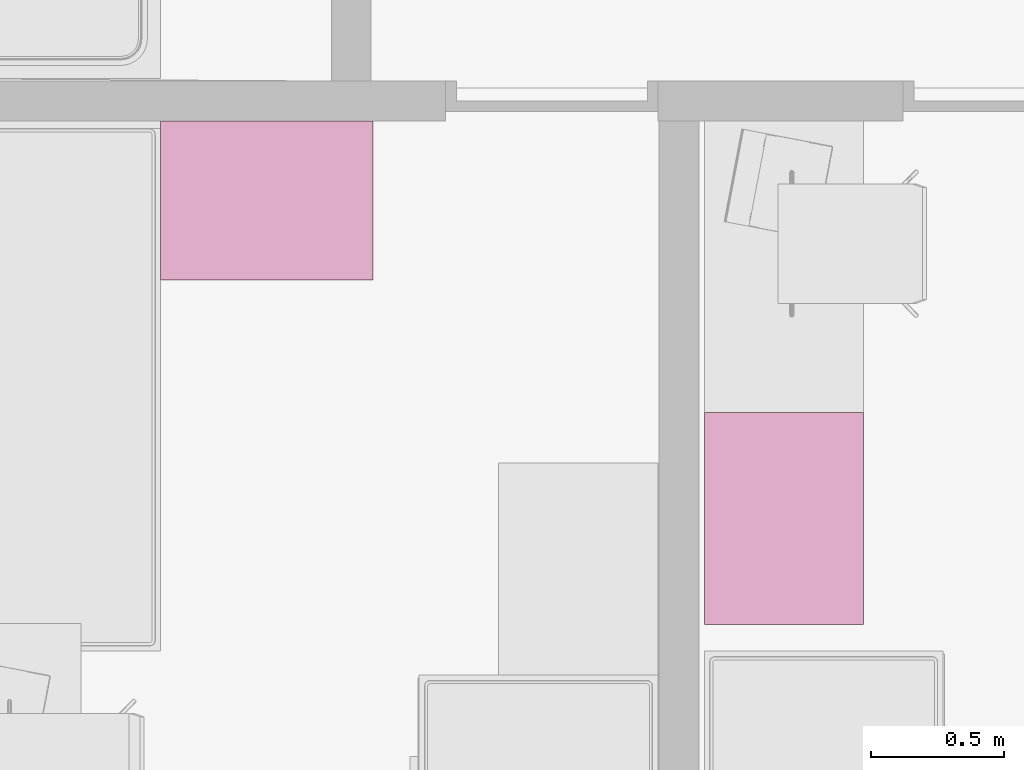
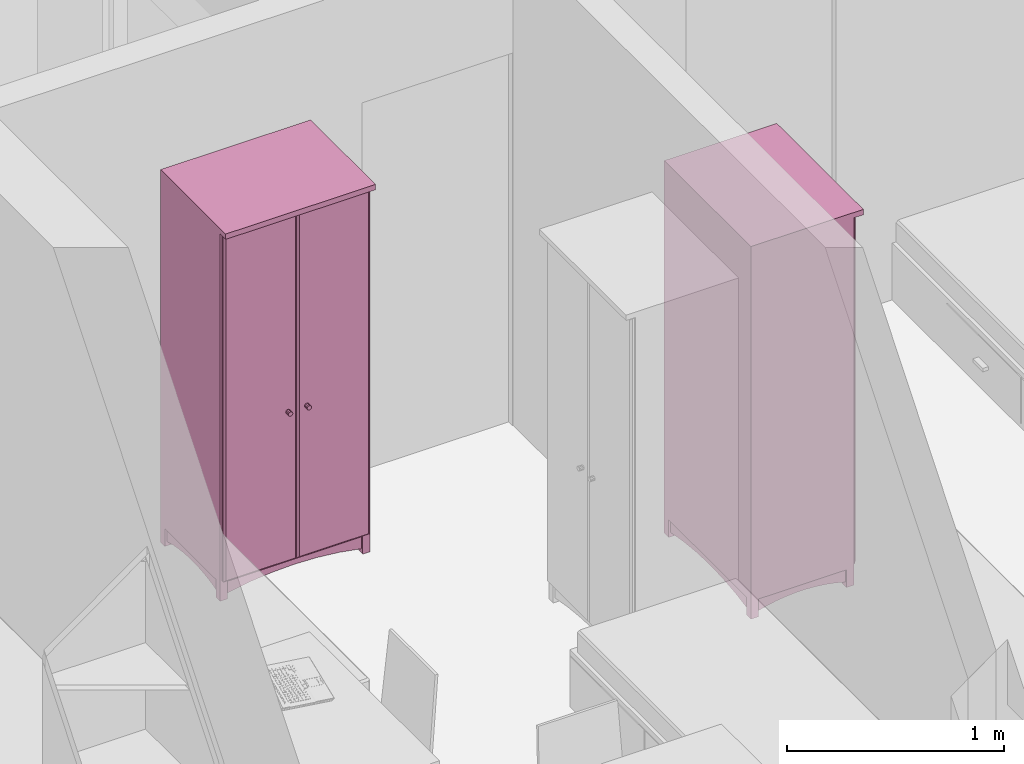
# One storey, part 131 of 172: 2 furnishings.
"""IFC2X3 building model written with IfcOpenShell, lengths in millimetres."""

import ifcopenshell
import ifcopenshell.guid

model = None  # the IFC model being written
_history = None  # IfcOwnerHistory: only IFC2X3 demands one
_inside = {}  # id of a spatial element -> (the spatial element, [elements in it])
_under = {}  # id of a project, library or spatial element -> (it, [spatial elements below it])
_declared = {}  # id of a project -> (the project, [libraries it declares])
_typed = {}  # id of a type object -> (the type object, [elements of that type])
_made_of = {}  # id of a material, layer set ... -> (it, [elements and type objects made of it])


def new_model(schema):
    """Start an empty IFC model of exactly this schema.

    Asked for "IFC4X3", IfcOpenShell would pick the latest addendum, in which some entities
    have other attributes; the version numbers below select the first issue.
    IFC2X3 requires an IfcOwnerHistory on every rooted entity: one is made here for all.
    """
    global model, _history
    if schema == "IFC4X3":
        model = ifcopenshell.file(schema_version=(4, 3, 0, 0))
    else:
        model = ifcopenshell.file(schema=schema)
    _inside.clear()
    _under.clear()
    _declared.clear()
    _typed.clear()
    _made_of.clear()
    _history = None
    if model.schema == "IFC2X3":
        org = make("IfcOrganization", Name="unknown")
        user = make(
            "IfcPersonAndOrganization",
            ThePerson=make("IfcPerson", FamilyName="unknown"),
            TheOrganization=org,
        )
        app = make(
            "IfcApplication",
            ApplicationDeveloper=org,
            Version="unknown",
            ApplicationFullName="unknown",
            ApplicationIdentifier="unknown",
        )
        _history = make(
            "IfcOwnerHistory",
            OwningUser=user,
            OwningApplication=app,
            ChangeAction="ADDED",
            CreationDate=0,
        )
    return model


def make(cls, **values):
    """One entity of the class cls with the attributes given. An attribute that is None is left unset."""
    return model.create_entity(
        cls, **{name: value for name, value in values.items() if value is not None}
    )


def entity(cls, *values):
    """Any entity or typed value of the class cls, its attributes in the order of the schema. None: left unset."""
    e = model.create_entity(cls)
    for i, value in enumerate(values):
        if value is not None:
            e[i] = value
    return e


def rooted(cls, **values):
    """An entity with a GlobalId (a new one), such as an element, a storey or a relation."""
    return make(cls, GlobalId=ifcopenshell.guid.new(), OwnerHistory=_history, **values)


def si_unit(unit_type, name, prefix=None):
    """IfcSIUnit, for example si_unit("LENGTHUNIT", "METRE", prefix="MILLI")."""
    return make("IfcSIUnit", UnitType=unit_type, Prefix=prefix, Name=name)


def converted_unit(unit_type, name, factor, base, dimensions=None, offset=None):
    """IfcConversionBasedUnit, such as the inch: factor (a typed value) times the base unit."""
    return make(
        "IfcConversionBasedUnit"
        if offset is None
        else "IfcConversionBasedUnitWithOffset",
        ConversionOffset=offset,
        Dimensions=None
        if dimensions is None
        else entity("IfcDimensionalExponents", *dimensions),
        UnitType=unit_type,
        Name=name,
        ConversionFactor=make(
            "IfcMeasureWithUnit", ValueComponent=factor, UnitComponent=base
        ),
    )


def money_unit(currency):
    """IfcMonetaryUnit."""
    return make("IfcMonetaryUnit", Currency=currency)


def assignment(units):
    """IfcUnitAssignment: the units of a project."""
    return None if units is None else make("IfcUnitAssignment", Units=units)


def point(xyz):
    """IfcCartesianPoint."""
    return None if xyz is None else make("IfcCartesianPoint", Coordinates=xyz)


def direction(xyz):
    """IfcDirection."""
    return None if xyz is None else make("IfcDirection", DirectionRatios=xyz)


def frame(location, z_axis=None, x_axis=None):
    """IfcAxis2Placement3D, a coordinate frame: its origin and axes. An axis left out is left unset."""
    return make(
        "IfcAxis2Placement3D",
        Location=point(location),
        Axis=direction(z_axis),
        RefDirection=direction(x_axis),
    )


def origin_with_axes():
    """The frame at (0, 0, 0) with the z axis (0, 0, 1) and the x axis (1, 0, 0) written out."""
    return frame((0.0, 0.0, 0.0), z_axis=(0.0, 0.0, 1.0), x_axis=(1.0, 0.0, 0.0))


def place(relative_to, where):
    """IfcLocalPlacement: puts the frame where relative to a parent placement (None: the world)."""
    return make(
        "IfcLocalPlacement", PlacementRelTo=relative_to, RelativePlacement=where
    )


def context(
    kind, dimensions, precision=None, world=None, true_north=None, identifier=None
):
    """IfcGeometricRepresentationContext, for example the 3D "Model" context."""
    return make(
        "IfcGeometricRepresentationContext",
        ContextIdentifier=identifier,
        ContextType=kind,
        CoordinateSpaceDimension=dimensions,
        Precision=precision,
        WorldCoordinateSystem=world,
        TrueNorth=true_north,
    )


def subcontext(parent, identifier, kind, view, scale=None):
    """IfcGeometricRepresentationSubContext, for example "Body" below "Model"."""
    return make(
        "IfcGeometricRepresentationSubContext",
        ContextIdentifier=identifier,
        ContextType=kind,
        ParentContext=parent,
        TargetScale=scale,
        TargetView=view,
    )


def project(units=None, contexts=None):
    """IfcProject with its units and contexts."""
    return rooted(
        "IfcProject",
        Name="project",
        RepresentationContexts=contexts,
        UnitsInContext=assignment(units),
    )


def spatial(cls, under=None, at=None, **own):
    """A site, building, storey or space (cls), placed at a placement, below another one or the project."""
    s = rooted(cls, ObjectPlacement=at, **own)
    if under is not None:
        _under.setdefault(under.id(), (under, []))[1].append(s)
    return s


def faces_of(points, faces, orient=None, outer=None):
    """IfcFace entities. A face is a list of loops; a loop is a list of indices into points, from 0.

    orient and outer hold one flag for each loop. By default every Orientation is true, the
    first loop of a face is its IfcFaceOuterBound and the others are IfcFaceBound.
    """
    made = []
    for i, loops in enumerate(faces):
        bounds = []
        for j, loop in enumerate(loops):
            is_outer = j == 0 if outer is None else outer[i][j]
            bounds.append(
                make(
                    "IfcFaceOuterBound" if is_outer else "IfcFaceBound",
                    Bound=make("IfcPolyLoop", Polygon=[points[k] for k in loop]),
                    Orientation=True if orient is None else orient[i][j],
                )
            )
        made.append(make("IfcFace", Bounds=bounds))
    return made


def faceted_brep(points, faces, orient=None, outer=None, voids=None):
    """IfcFacetedBrep: a solid bounded by flat faces; with voids (closed shells), ...WithVoids."""
    shared = [point(p) for p in points]
    hull = make("IfcClosedShell", CfsFaces=faces_of(shared, faces, orient, outer))
    if voids is None:
        return make("IfcFacetedBrep", Outer=hull)
    return make(
        "IfcFacetedBrepWithVoids",
        Outer=hull,
        Voids=[
            make(cls, CfsFaces=faces_of(shared, fs, o, b)) for cls, fs, o, b in voids
        ],
    )


def shape(context_of_items, identifier, shape_type, items):
    """IfcShapeRepresentation: the items that make up one representation, for example the "Body"."""
    return make(
        "IfcShapeRepresentation",
        ContextOfItems=context_of_items,
        RepresentationIdentifier=identifier,
        RepresentationType=shape_type,
        Items=items,
    )


def source(mapping_origin, context_of_items, identifier, shape_type, items):
    """IfcRepresentationMap: a shape defined once, which mapped items show again and again."""
    return make(
        "IfcRepresentationMap",
        MappingOrigin=mapping_origin,
        MappedRepresentation=shape(context_of_items, identifier, shape_type, items),
    )


def transform(
    local_origin,
    x_axis=None,
    y_axis=None,
    z_axis=None,
    scale=None,
    scale2=None,
    scale3=None,
    uniform=True,
):
    """IfcCartesianTransformationOperator3D, or its non-uniform kind. x_axis, y_axis, z_axis: its Axis1, 2, 3."""
    if uniform:
        return make(
            "IfcCartesianTransformationOperator3D",
            Axis1=direction(x_axis),
            Axis2=direction(y_axis),
            LocalOrigin=point(local_origin),
            Scale=scale,
            Axis3=direction(z_axis),
        )
    return make(
        "IfcCartesianTransformationOperator3DnonUniform",
        Axis1=direction(x_axis),
        Axis2=direction(y_axis),
        LocalOrigin=point(local_origin),
        Scale=scale,
        Axis3=direction(z_axis),
        Scale2=scale2,
        Scale3=scale3,
    )


def mapped(mapping_source, mapping_target):
    """IfcMappedItem: shows the shape of a source again, moved by a transform."""
    return make(
        "IfcMappedItem", MappingSource=mapping_source, MappingTarget=mapping_target
    )


def material(Name=None, Category=None):
    """IfcMaterial."""
    return make("IfcMaterial", Name=Name, Category=Category)


def material_list(materials):
    """IfcMaterialList."""
    return make("IfcMaterialList", Materials=materials)


def made_of(thing, what):
    """Note that an element or type object is made of a material, layer set ...; save() writes the relation."""
    if what is not None:
        _made_of.setdefault(what.id(), (what, []))[1].append(thing)
    return thing


def type_object(cls, material=None, **own):
    """A type object (cls), such as IfcWallType, which elements share."""
    return made_of(rooted(cls, **own), material)


def element(
    cls,
    number,
    at=None,
    inside=None,
    cuts=None,
    type_object=None,
    material=None,
    context=None,
    identifier="Body",
    shape_type=None,
    held_by="IfcProductDefinitionShape",
    body=None,
    shapes=None,
    **own,
):
    """One element of the class cls, such as IfcWall. Its Tag is "e" and its number.

    at: its placement. inside: the storey or other place that contains it. cuts: it is an
    opening in that element (IfcRelVoidsElement). A single representation is given by context,
    identifier, shape_type and body (its items); several are given by shapes. held_by: the class
    of the entity that holds the representations. save() writes the other relations.
    """
    e = rooted(cls, Tag="e%d" % number, ObjectPlacement=at, **own)
    if body is not None:
        shapes = [shape(context, identifier, shape_type, body)]
    if shapes is not None:
        e.Representation = make(held_by, Representations=shapes)
    if inside is not None:
        _inside.setdefault(inside.id(), (inside, []))[1].append(e)
    if cuts is not None:
        rooted(
            "IfcRelVoidsElement", RelatingBuildingElement=cuts, RelatedOpeningElement=e
        )
    if type_object is not None:
        _typed.setdefault(type_object.id(), (type_object, []))[1].append(e)
    return made_of(e, material)


def aggregate(whole, parts):
    """IfcRelAggregates: a whole, such as a stair, and the parts it consists of."""
    return rooted("IfcRelAggregates", RelatingObject=whole, RelatedObjects=parts)


def save(model, path):
    """Write the relations noted so far, then the file.

    IfcRelAggregates (storeys below a building ...), IfcRelContainedInSpatialStructure (elements
    in a storey), IfcRelDefinesByType, IfcRelAssociatesMaterial and IfcRelDeclares: one each for
    every whole, place, type object, material and project.
    """
    for whole, parts in _under.values():
        aggregate(whole, parts)
    for where, things in _inside.values():
        rooted(
            "IfcRelContainedInSpatialStructure",
            RelatedElements=things,
            RelatingStructure=where,
        )
    for kind, things in _typed.values():
        rooted("IfcRelDefinesByType", RelatedObjects=things, RelatingType=kind)
    for what, things in _made_of.values():
        rooted("IfcRelAssociatesMaterial", RelatedObjects=things, RelatingMaterial=what)
    for by, libraries in _declared.values():
        rooted("IfcRelDeclares", RelatingContext=by, RelatedDefinitions=libraries)
    model.write(path)


model = new_model("IFC2X3")

# Units and contexts
model_context = context("Model", 3, precision=1e-05, world=origin_with_axes(), true_north=direction((0.0, 1.0)))
body_context = subcontext(model_context, "Body", "Model", "MODEL_VIEW")
ifc_project = project(units=[si_unit("LENGTHUNIT", "METRE", prefix="MILLI"), si_unit("AREAUNIT", "SQUARE_METRE"), si_unit("VOLUMEUNIT", "CUBIC_METRE"), converted_unit("PLANEANGLEUNIT", "DEGREE", entity("IfcPlaneAngleMeasure", 0.0174532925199), si_unit("PLANEANGLEUNIT", "RADIAN"), dimensions=[0, 0, 0, 0, 0, 0, 0]), si_unit("SOLIDANGLEUNIT", "STERADIAN"), money_unit("USD"), converted_unit("TIMEUNIT", "Year", entity("IfcTimeMeasure", 31556926.0), si_unit("TIMEUNIT", "SECOND"), dimensions=[0, 0, 0, 0, 0, 0, 0]), si_unit("MASSUNIT", "GRAM"), si_unit("THERMODYNAMICTEMPERATUREUNIT", "DEGREE_CELSIUS"), si_unit("LUMINOUSINTENSITYUNIT", "LUMEN")], contexts=[model_context])

# Site, building, storey
site_placement = place(None, origin_with_axes())
site = spatial("IfcSite", under=ifc_project, at=site_placement, Name="Site", CompositionType="ELEMENT")
building_placement = place(site_placement, origin_with_axes())
building = spatial("IfcBuilding", under=site, at=building_placement, Name="Building", CompositionType="ELEMENT")
storey_placement = place(building_placement, frame((0.0, 0.0, 3200.0), z_axis=(0.0, 0.0, 1.0), x_axis=(1.0, 0.0, 0.0)))
storey = spatial("IfcBuildingStorey", under=building, at=storey_placement, Name="3KORRUS", CompositionType="ELEMENT", Elevation=3200.0)

# Furnishings
ifc_material = material(Name="Background")
ifc_material_list = material_list([ifc_material])
furnishing_element_type = type_object("IfcFurnishingElementType", Name="Cupboard 19")
shared_shape = source(origin_with_axes(), body_context, "Body", "Brep", [
    faceted_brep([(-780.0, 600.0, 120.0), (-780.0, 580.0, 120.0), (-780.0, 580.0, 2050.0), (-780.0, 600.0, 2050.0), (-20.0, 600.0, 120.0), (-20.0, 580.0, 120.0), (-20.0, 580.0, 2050.0), (-20.0, 600.0, 2050.0)], [[[0, 1, 2, 3]], [[0, 4, 5, 1]], [[1, 5, 6, 2]], [[3, 2, 6, 7]], [[4, 0, 3, 7]], [[5, 4, 7, 6]]]),
    faceted_brep([(0.0, 50.0, 100.0), (-20.0, 50.0, 100.0), (-20.0, 600.0, 100.0), (0.0, 600.0, 100.0), (0.0, 50.0, 2070.0), (-20.0, 50.0, 2070.0), (-20.0, 600.0, 2070.0), (0.0, 600.0, 2070.0)], [[[0, 1, 2, 3]], [[1, 0, 4, 5]], [[2, 1, 5, 6]], [[3, 2, 6, 7]], [[0, 3, 7, 4]], [[5, 4, 7, 6]]]),
    faceted_brep([(-780.0, 50.0, 100.0), (-800.0, 50.0, 100.0), (-800.0, 600.0, 100.0), (-780.0, 600.0, 100.0), (-780.0, 50.0, 2070.0), (-800.0, 50.0, 2070.0), (-800.0, 600.0, 2070.0), (-780.0, 600.0, 2070.0)], [[[0, 1, 2, 3]], [[1, 0, 4, 5]], [[2, 1, 5, 6]], [[3, 2, 6, 7]], [[0, 3, 7, 4]], [[5, 4, 7, 6]]]),
    faceted_brep([(-20.0, 50.0, 100.0), (-780.0, 50.0, 100.0), (-780.0, 600.0, 100.0), (-20.0, 600.0, 100.0), (-20.0, 50.0, 120.0), (-780.0, 50.0, 120.0), (-780.0, 600.0, 120.0), (-20.0, 600.0, 120.0)], [[[0, 1, 2, 3]], [[1, 0, 4, 5]], [[2, 1, 5, 6]], [[3, 2, 6, 7]], [[0, 3, 7, 4]], [[5, 4, 7, 6]]]),
    faceted_brep([(-20.0, 50.0, 2050.0), (-780.0, 50.0, 2050.0), (-780.0, 600.0, 2050.0), (-20.0, 600.0, 2050.0), (-20.0, 50.0, 2070.0), (-780.0, 50.0, 2070.0), (-780.0, 600.0, 2070.0), (-20.0, 600.0, 2070.0)], [[[0, 1, 2, 3]], [[1, 0, 4, 5]], [[2, 1, 5, 6]], [[3, 2, 6, 7]], [[0, 3, 7, 4]], [[5, 4, 7, 6]]]),
    faceted_brep([(0.0, 600.0, 2070.0), (0.0, 600.0, 2100.0), (0.0, 0.0, 2100.0), (0.0, 0.0, 2070.0), (-800.0, 600.0, 2070.0), (-800.0, 600.0, 2100.0), (-800.0, 0.0, 2100.0), (-800.0, 0.0, 2070.0)], [[[0, 1, 2, 3]], [[4, 5, 1, 0]], [[1, 5, 6, 2]], [[3, 2, 6, 7]], [[0, 3, 7, 4]], [[7, 6, 5, 4]]]),
    faceted_brep([(-760.0, 590.0, 25.0), (-640.962, 590.0, 45.8), (-640.962, 570.0, 45.8), (-760.0, 570.0, 25.0), (-760.0, 590.0, 100.0), (-40.0, 590.0, 100.0), (-40.0, 590.0, 25.0), (-159.038, 590.0, 45.8), (-279.23, 590.0, 58.32), (-400.0, 590.0, 62.5), (-520.77, 590.0, 58.32), (-520.77, 570.0, 58.32), (-400.0, 570.0, 62.5), (-279.23, 570.0, 58.32), (-159.038, 570.0, 45.8), (-40.0, 570.0, 25.0), (-40.0, 570.0, 100.0), (-760.0, 570.0, 100.0)], [[[0, 1, 2, 3]], [[0, 4, 5, 6, 7, 8, 9, 10, 1]], [[1, 10, 11, 2]], [[3, 2, 11, 12, 13, 14, 15, 16, 17]], [[4, 0, 3, 17]], [[5, 4, 17, 16]], [[6, 5, 16, 15]], [[7, 6, 15, 14]], [[8, 7, 14, 13]], [[9, 8, 13, 12]], [[10, 9, 12, 11]]]),
    faceted_brep([(-760.0, 80.0, 25.0), (-640.962, 80.0, 45.8), (-640.962, 60.0, 45.8), (-760.0, 60.0, 25.0), (-760.0, 80.0, 100.0), (-40.0, 80.0, 100.0), (-40.0, 80.0, 25.0), (-159.038, 80.0, 45.8), (-279.23, 80.0, 58.32), (-400.0, 80.0, 62.5), (-520.77, 80.0, 58.32), (-520.77, 60.0, 58.32), (-400.0, 60.0, 62.5), (-279.23, 60.0, 58.32), (-159.038, 60.0, 45.8), (-40.0, 60.0, 25.0), (-40.0, 60.0, 100.0), (-760.0, 60.0, 100.0)], [[[0, 1, 2, 3]], [[0, 4, 5, 6, 7, 8, 9, 10, 1]], [[1, 10, 11, 2]], [[3, 2, 11, 12, 13, 14, 15, 16, 17]], [[4, 0, 3, 17]], [[5, 4, 17, 16]], [[6, 5, 16, 15]], [[7, 6, 15, 14]], [[8, 7, 14, 13]], [[9, 8, 13, 12]], [[10, 9, 12, 11]]]),
    faceted_brep([(-790.0, 90.0, 25.0), (-790.0, 141.266, 38.072), (-770.0, 141.266, 38.072), (-770.0, 90.0, 25.0), (-790.0, 90.0, 100.0), (-790.0, 560.0, 100.0), (-790.0, 560.0, 25.0), (-790.0, 508.734, 38.072), (-790.0, 456.752, 47.92), (-790.0, 404.257, 54.508), (-790.0, 351.453, 57.808), (-790.0, 298.547, 57.808), (-790.0, 245.743, 54.508), (-790.0, 193.248, 47.92), (-770.0, 193.248, 47.92), (-770.0, 245.743, 54.508), (-770.0, 298.547, 57.808), (-770.0, 351.453, 57.808), (-770.0, 404.257, 54.508), (-770.0, 456.752, 47.92), (-770.0, 508.734, 38.072), (-770.0, 560.0, 25.0), (-770.0, 560.0, 100.0), (-770.0, 90.0, 100.0)], [[[0, 1, 2, 3]], [[0, 4, 5, 6, 7, 8, 9, 10, 11, 12, 13, 1]], [[1, 13, 14, 2]], [[3, 2, 14, 15, 16, 17, 18, 19, 20, 21, 22, 23]], [[4, 0, 3, 23]], [[5, 4, 23, 22]], [[6, 5, 22, 21]], [[7, 6, 21, 20]], [[8, 7, 20, 19]], [[9, 8, 19, 18]], [[10, 9, 18, 17]], [[11, 10, 17, 16]], [[12, 11, 16, 15]], [[13, 12, 15, 14]]]),
    faceted_brep([(-30.0, 90.0, 25.0), (-30.0, 141.266, 38.072), (-10.0, 141.266, 38.072), (-10.0, 90.0, 25.0), (-30.0, 90.0, 100.0), (-30.0, 560.0, 100.0), (-30.0, 560.0, 25.0), (-30.0, 508.734, 38.072), (-30.0, 456.752, 47.92), (-30.0, 404.257, 54.508), (-30.0, 351.453, 57.808), (-30.0, 298.547, 57.808), (-30.0, 245.743, 54.508), (-30.0, 193.248, 47.92), (-10.0, 193.248, 47.92), (-10.0, 245.743, 54.508), (-10.0, 298.547, 57.808), (-10.0, 351.453, 57.808), (-10.0, 404.257, 54.508), (-10.0, 456.752, 47.92), (-10.0, 508.734, 38.072), (-10.0, 560.0, 25.0), (-10.0, 560.0, 100.0), (-10.0, 90.0, 100.0)], [[[0, 1, 2, 3]], [[0, 4, 5, 6, 7, 8, 9, 10, 11, 12, 13, 1]], [[1, 13, 14, 2]], [[3, 2, 14, 15, 16, 17, 18, 19, 20, 21, 22, 23]], [[4, 0, 3, 23]], [[5, 4, 23, 22]], [[6, 5, 22, 21]], [[7, 6, 21, 20]], [[8, 7, 20, 19]], [[9, 8, 19, 18]], [[10, 9, 18, 17]], [[11, 10, 17, 16]], [[12, 11, 16, 15]], [[13, 12, 15, 14]]]),
    faceted_brep([(-760.0, 560.0, 0.0), (-760.0, 600.0, 0.0), (-760.0, 600.0, 100.0), (-760.0, 560.0, 100.0), (-800.0, 560.0, 0.0), (-800.0, 600.0, 0.0), (-800.0, 600.0, 100.0), (-800.0, 560.0, 100.0)], [[[0, 1, 2, 3]], [[0, 4, 5, 1]], [[1, 5, 6, 2]], [[3, 2, 6, 7]], [[4, 0, 3, 7]], [[5, 4, 7, 6]]]),
    faceted_brep([(0.0, 560.0, 0.0), (0.0, 600.0, 0.0), (0.0, 600.0, 100.0), (0.0, 560.0, 100.0), (-40.0, 560.0, 0.0), (-40.0, 600.0, 0.0), (-40.0, 600.0, 100.0), (-40.0, 560.0, 100.0)], [[[0, 1, 2, 3]], [[0, 4, 5, 1]], [[1, 5, 6, 2]], [[3, 2, 6, 7]], [[4, 0, 3, 7]], [[5, 4, 7, 6]]]),
    faceted_brep([(-760.0, 50.0, 0.0), (-760.0, 90.0, 0.0), (-760.0, 90.0, 100.0), (-760.0, 50.0, 100.0), (-800.0, 50.0, 0.0), (-800.0, 90.0, 0.0), (-800.0, 90.0, 100.0), (-800.0, 50.0, 100.0)], [[[0, 1, 2, 3]], [[0, 4, 5, 1]], [[1, 5, 6, 2]], [[3, 2, 6, 7]], [[4, 0, 3, 7]], [[5, 4, 7, 6]]]),
    faceted_brep([(0.0, 50.0, 0.0), (0.0, 90.0, 0.0), (0.0, 90.0, 100.0), (0.0, 50.0, 100.0), (-40.0, 50.0, 0.0), (-40.0, 90.0, 0.0), (-40.0, 90.0, 100.0), (-40.0, 50.0, 100.0)], [[[0, 1, 2, 3]], [[0, 4, 5, 1]], [[1, 5, 6, 2]], [[3, 2, 6, 7]], [[4, 0, 3, 7]], [[5, 4, 7, 6]]]),
    faceted_brep([(-780.0, 580.0, 587.5), (-780.0, 50.0, 587.5), (-780.0, 50.0, 607.5), (-780.0, 580.0, 607.5), (-20.0, 580.0, 587.5), (-20.0, 50.0, 587.5), (-20.0, 50.0, 607.5), (-20.0, 580.0, 607.5)], [[[0, 1, 2, 3]], [[0, 4, 5, 1]], [[1, 5, 6, 2]], [[3, 2, 6, 7]], [[4, 0, 3, 7]], [[5, 4, 7, 6]]]),
    faceted_brep([(-780.0, 580.0, 1075.0), (-780.0, 50.0, 1075.0), (-780.0, 50.0, 1095.0), (-780.0, 580.0, 1095.0), (-20.0, 580.0, 1075.0), (-20.0, 50.0, 1075.0), (-20.0, 50.0, 1095.0), (-20.0, 580.0, 1095.0)], [[[0, 1, 2, 3]], [[0, 4, 5, 1]], [[1, 5, 6, 2]], [[3, 2, 6, 7]], [[4, 0, 3, 7]], [[5, 4, 7, 6]]]),
    faceted_brep([(-780.0, 580.0, 1562.5), (-780.0, 50.0, 1562.5), (-780.0, 50.0, 1582.5), (-780.0, 580.0, 1582.5), (-20.0, 580.0, 1562.5), (-20.0, 50.0, 1562.5), (-20.0, 50.0, 1582.5), (-20.0, 580.0, 1582.5)], [[[0, 1, 2, 3]], [[0, 4, 5, 1]], [[1, 5, 6, 2]], [[3, 2, 6, 7]], [[4, 0, 3, 7]], [[5, 4, 7, 6]]]),
    faceted_brep([(-789.5, 50.0, 110.5), (-789.5, 50.0, 2059.5), (-400.5, 50.0, 2059.5), (-400.5, 50.0, 110.5), (-789.5, 40.0, 110.5), (-789.5, 40.0, 2059.5), (-400.5, 40.0, 2059.5), (-400.5, 40.0, 110.5), (-779.5, 30.0, 120.5), (-779.5, 30.0, 2049.5), (-410.5, 30.0, 2049.5), (-410.5, 30.0, 120.5)], [[[0, 1, 2, 3]], [[1, 0, 4, 5]], [[2, 1, 5, 6]], [[3, 2, 6, 7]], [[0, 3, 7, 4]], [[5, 4, 8, 9]], [[6, 5, 9, 10]], [[7, 6, 10, 11]], [[4, 7, 11, 8]], [[10, 9, 8, 11]]]),
    faceted_brep([(-399.5, 50.0, 110.5), (-399.5, 50.0, 2059.5), (-10.5, 50.0, 2059.5), (-10.5, 50.0, 110.5), (-399.5, 40.0, 110.5), (-399.5, 40.0, 2059.5), (-10.5, 40.0, 2059.5), (-10.5, 40.0, 110.5), (-389.5, 30.0, 120.5), (-389.5, 30.0, 2049.5), (-20.5, 30.0, 2049.5), (-20.5, 30.0, 120.5)], [[[0, 1, 2, 3]], [[1, 0, 4, 5]], [[2, 1, 5, 6]], [[3, 2, 6, 7]], [[0, 3, 7, 4]], [[5, 4, 8, 9]], [[6, 5, 9, 10]], [[7, 6, 10, 11]], [[4, 7, 11, 8]], [[10, 9, 8, 11]]]),
    faceted_brep([(-339.608, 30.0, 954.0), (-344.0, 30.0, 949.608), (-350.0, 30.0, 948.0), (-356.0, 30.0, 949.608), (-360.392, 30.0, 954.0), (-362.0, 30.0, 960.0), (-360.392, 30.0, 966.0), (-356.0, 30.0, 970.392), (-350.0, 30.0, 972.0), (-344.0, 30.0, 970.392), (-339.608, 30.0, 966.0), (-338.0, 30.0, 960.0), (-339.608, 5.0, 954.0), (-344.0, 5.0, 949.608), (-350.0, 5.0, 948.0), (-356.0, 5.0, 949.608), (-360.392, 5.0, 954.0), (-362.0, 5.0, 960.0), (-360.392, 5.0, 966.0), (-356.0, 5.0, 970.392), (-350.0, 5.0, 972.0), (-344.0, 5.0, 970.392), (-339.608, 5.0, 966.0), (-338.0, 5.0, 960.0)], [[[0, 1, 2, 3, 4, 5, 6, 7, 8, 9, 10, 11]], [[1, 0, 12, 13]], [[2, 1, 13, 14]], [[3, 2, 14, 15]], [[4, 3, 15, 16]], [[5, 4, 16, 17]], [[6, 5, 17, 18]], [[7, 6, 18, 19]], [[8, 7, 19, 20]], [[9, 8, 20, 21]], [[10, 9, 21, 22]], [[11, 10, 22, 23]], [[0, 11, 23, 12]], [[12, 23, 22, 21, 20, 19, 18, 17, 16, 15, 14, 13]]]),
    faceted_brep([(-460.392, 30.0, 954.0), (-462.0, 30.0, 960.0), (-460.392, 30.0, 966.0), (-456.0, 30.0, 970.392), (-450.0, 30.0, 972.0), (-444.0, 30.0, 970.392), (-439.608, 30.0, 966.0), (-438.0, 30.0, 960.0), (-439.608, 30.0, 954.0), (-444.0, 30.0, 949.608), (-450.0, 30.0, 948.0), (-456.0, 30.0, 949.608), (-460.392, 5.0, 954.0), (-462.0, 5.0, 960.0), (-460.392, 5.0, 966.0), (-456.0, 5.0, 970.392), (-450.0, 5.0, 972.0), (-444.0, 5.0, 970.392), (-439.608, 5.0, 966.0), (-438.0, 5.0, 960.0), (-439.608, 5.0, 954.0), (-444.0, 5.0, 949.608), (-450.0, 5.0, 948.0), (-456.0, 5.0, 949.608)], [[[0, 1, 2, 3, 4, 5, 6, 7, 8, 9, 10, 11]], [[0, 12, 13, 1]], [[1, 13, 14, 2]], [[2, 14, 15, 3]], [[3, 15, 16, 4]], [[4, 16, 17, 5]], [[5, 17, 18, 6]], [[6, 18, 19, 7]], [[7, 19, 20, 8]], [[8, 20, 21, 9]], [[9, 21, 22, 10]], [[10, 22, 23, 11]], [[11, 23, 12, 0]], [[12, 23, 22, 21, 20, 19, 18, 17, 16, 15, 14, 13]]]),
])
for number, where, z_axis, x_axis, name in (
    (1, (7715.99169205, -16039.2398994, 0.0), (0.0, 0.0, 1.0), (1.0, 0.0, 0.0), "FU - 014"),
    (2, (9565.99169205, -16539.2398994, 0.0), (0.0, 0.0, 1.0), (0.0, 1.0, 0.0), "FU - 014"),
):
    element("IfcFurnishingElement", number, at=place(storey_placement, frame(where, z_axis=z_axis, x_axis=x_axis)), inside=storey, type_object=furnishing_element_type, material=ifc_material_list, Name=name, context=body_context, shape_type="MappedRepresentation", body=[
        mapped(shared_shape, transform((0.0, 0.0, 0.0))),
    ])

save(model, "model.ifc")
